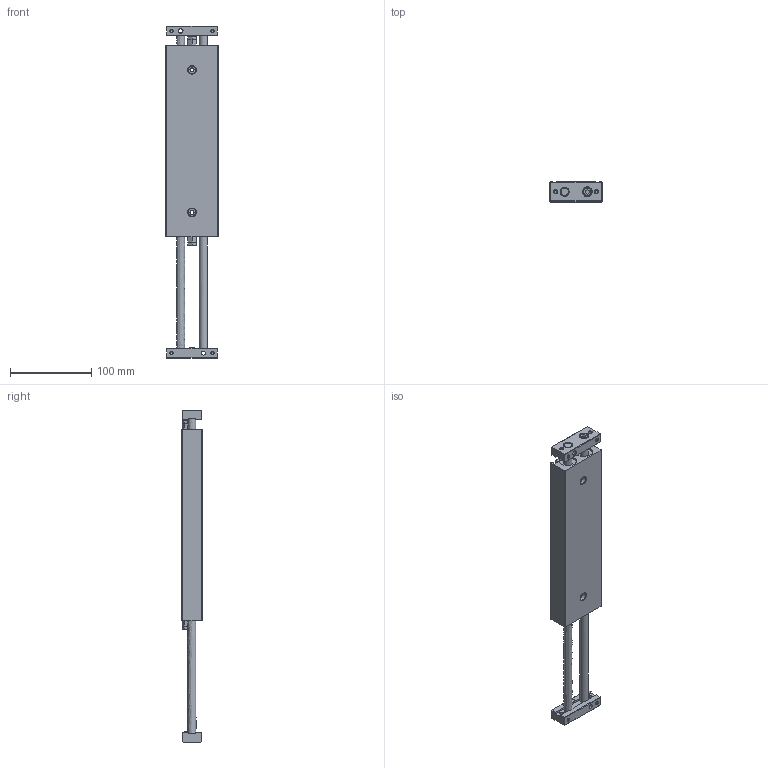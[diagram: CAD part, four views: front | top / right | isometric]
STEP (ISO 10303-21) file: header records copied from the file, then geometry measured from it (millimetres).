
FILE_DESCRIPTION((''),'2;1');
FILE_NAME('I:\3D電子目錄\氣缸\STX\STX\STX20\STX20x125.stp','2007-10-02T08:33:54',('Administrator'),(''),'Autodesk Inventor 11','Autodesk Inventor 11','');
FILE_SCHEMA(('AUTOMOTIVE_DESIGN { 1 0 10303 214 1 1 1 1 }'));
Length unit declared in the file: millimetre
Products named in the file (1): STX20
Bounding box: 64 x 25 x 408 mm (x, y, z)
Volume: 409355.4 mm3; surface area: 76270.3 mm2
Topology: 1 solids, 1 shells, 277 faces, 685 edges, 425 vertices
Faces by surface type: plane 133, cone 75, bspline 42, cylinder 23, torus 4
Full cylindrical faces by diameter (mm): 3.242 x4, 6 x2, 9.5 x2, 10 x6, 10.2 x2, 11 x1, 11.2 x1, 21 x2, 22.2 x2
Entity records: 7915 total; most frequent: CARTESIAN_POINT 2261, DIRECTION 1108, ORIENTED_EDGE 1106, EDGE_CURVE 553, AXIS2_PLACEMENT_3D 424, EDGE_LOOP 408, VERTEX_POINT 381, FACE_OUTER_BOUND 276
